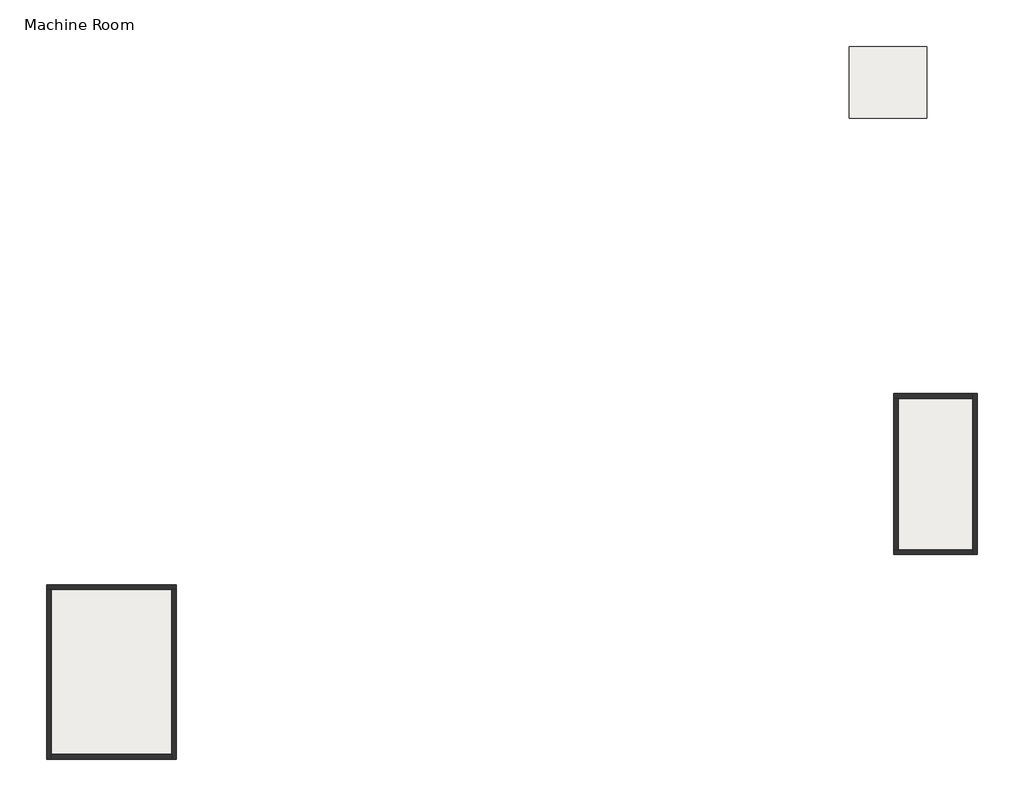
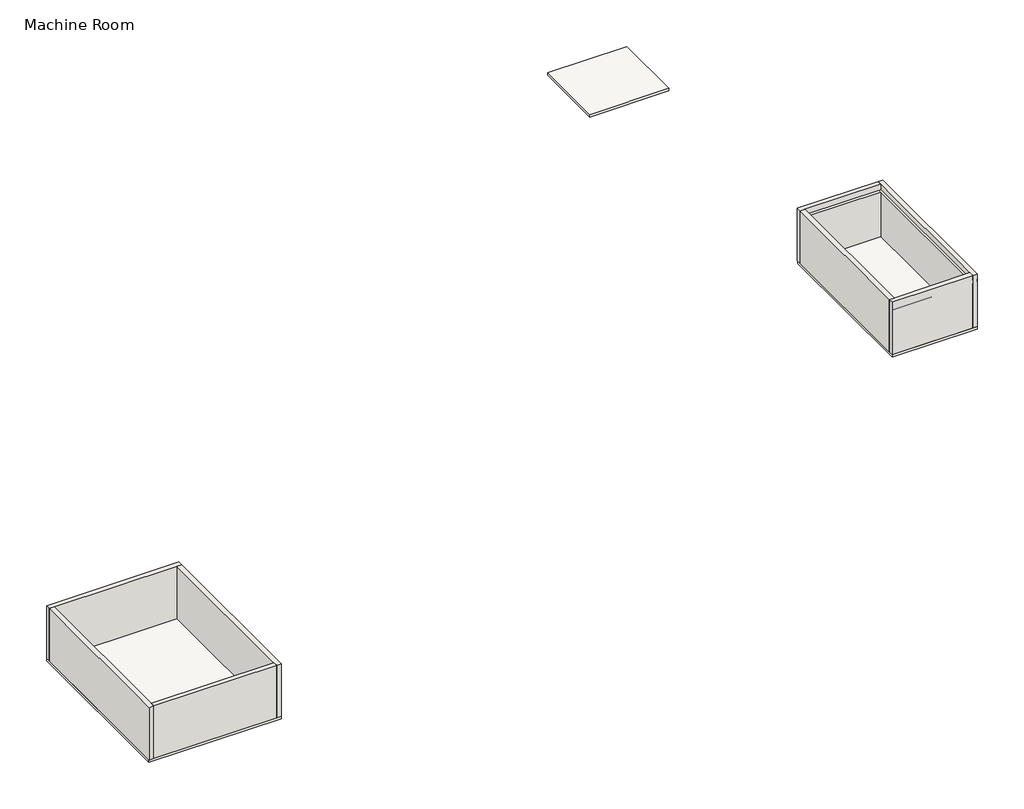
# One storey: 8 walls, 3 slabs.
"""IFC4 building model written with IfcOpenShell, lengths in millimetres."""

import ifcopenshell
import ifcopenshell.guid

model = None  # the IFC model being written
_history = None  # IfcOwnerHistory: only IFC2X3 demands one
_inside = {}  # id of a spatial element -> (the spatial element, [elements in it])
_under = {}  # id of a project, library or spatial element -> (it, [spatial elements below it])
_declared = {}  # id of a project -> (the project, [libraries it declares])
_typed = {}  # id of a type object -> (the type object, [elements of that type])
_made_of = {}  # id of a material, layer set ... -> (it, [elements and type objects made of it])


def new_model(schema):
    """Start an empty IFC model of exactly this schema.

    Asked for "IFC4X3", IfcOpenShell would pick the latest addendum, in which some entities
    have other attributes; the version numbers below select the first issue.
    IFC2X3 requires an IfcOwnerHistory on every rooted entity: one is made here for all.
    """
    global model, _history
    if schema == "IFC4X3":
        model = ifcopenshell.file(schema_version=(4, 3, 0, 0))
    else:
        model = ifcopenshell.file(schema=schema)
    _inside.clear()
    _under.clear()
    _declared.clear()
    _typed.clear()
    _made_of.clear()
    _history = None
    if model.schema == "IFC2X3":
        org = make("IfcOrganization", Name="unknown")
        user = make(
            "IfcPersonAndOrganization",
            ThePerson=make("IfcPerson", FamilyName="unknown"),
            TheOrganization=org,
        )
        app = make(
            "IfcApplication",
            ApplicationDeveloper=org,
            Version="unknown",
            ApplicationFullName="unknown",
            ApplicationIdentifier="unknown",
        )
        _history = make(
            "IfcOwnerHistory",
            OwningUser=user,
            OwningApplication=app,
            ChangeAction="ADDED",
            CreationDate=0,
        )
    return model


def make(cls, **values):
    """One entity of the class cls with the attributes given. An attribute that is None is left unset."""
    return model.create_entity(
        cls, **{name: value for name, value in values.items() if value is not None}
    )


def rooted(cls, **values):
    """An entity with a GlobalId (a new one), such as an element, a storey or a relation."""
    return make(cls, GlobalId=ifcopenshell.guid.new(), OwnerHistory=_history, **values)


def si_unit(unit_type, name, prefix=None):
    """IfcSIUnit, for example si_unit("LENGTHUNIT", "METRE", prefix="MILLI")."""
    return make("IfcSIUnit", UnitType=unit_type, Prefix=prefix, Name=name)


def assignment(units):
    """IfcUnitAssignment: the units of a project."""
    return None if units is None else make("IfcUnitAssignment", Units=units)


def point(xyz):
    """IfcCartesianPoint."""
    return None if xyz is None else make("IfcCartesianPoint", Coordinates=xyz)


def direction(xyz):
    """IfcDirection."""
    return None if xyz is None else make("IfcDirection", DirectionRatios=xyz)


def frame(location, z_axis=None, x_axis=None):
    """IfcAxis2Placement3D, a coordinate frame: its origin and axes. An axis left out is left unset."""
    return make(
        "IfcAxis2Placement3D",
        Location=point(location),
        Axis=direction(z_axis),
        RefDirection=direction(x_axis),
    )


def origin():
    """The frame at (0, 0, 0) with its axes left unset."""
    return frame((0.0, 0.0, 0.0))


def place(relative_to, where):
    """IfcLocalPlacement: puts the frame where relative to a parent placement (None: the world)."""
    return make(
        "IfcLocalPlacement", PlacementRelTo=relative_to, RelativePlacement=where
    )


def context(
    kind, dimensions, precision=None, world=None, true_north=None, identifier=None
):
    """IfcGeometricRepresentationContext, for example the 3D "Model" context."""
    return make(
        "IfcGeometricRepresentationContext",
        ContextIdentifier=identifier,
        ContextType=kind,
        CoordinateSpaceDimension=dimensions,
        Precision=precision,
        WorldCoordinateSystem=world,
        TrueNorth=true_north,
    )


def project(units=None, contexts=None):
    """IfcProject with its units and contexts."""
    return rooted(
        "IfcProject",
        Name="project",
        RepresentationContexts=contexts,
        UnitsInContext=assignment(units),
    )


def spatial(cls, under=None, at=None, **own):
    """A site, building, storey or space (cls), placed at a placement, below another one or the project."""
    s = rooted(cls, ObjectPlacement=at, **own)
    if under is not None:
        _under.setdefault(under.id(), (under, []))[1].append(s)
    return s


def polyline(points):
    """IfcPolyline through the points."""
    return make("IfcPolyline", Points=[point(p) for p in points])


def outline(outer, holes=None, kind="AREA"):
    """IfcArbitraryClosedProfileDef: a profile drawn as a closed curve; with holes, ...WithVoids."""
    if holes is None:
        return make("IfcArbitraryClosedProfileDef", ProfileType=kind, OuterCurve=outer)
    return make(
        "IfcArbitraryProfileDefWithVoids",
        ProfileType=kind,
        OuterCurve=outer,
        InnerCurves=holes,
    )


def extrude(swept, where, along, depth):
    """IfcExtrudedAreaSolid: the profile swept, set in the frame where, extruded along a direction by depth."""
    return make(
        "IfcExtrudedAreaSolid",
        SweptArea=swept,
        Position=where,
        ExtrudedDirection=direction(along),
        Depth=depth,
    )


def faces_of(points, faces, orient=None, outer=None):
    """IfcFace entities. A face is a list of loops; a loop is a list of indices into points, from 0.

    orient and outer hold one flag for each loop. By default every Orientation is true, the
    first loop of a face is its IfcFaceOuterBound and the others are IfcFaceBound.
    """
    made = []
    for i, loops in enumerate(faces):
        bounds = []
        for j, loop in enumerate(loops):
            is_outer = j == 0 if outer is None else outer[i][j]
            bounds.append(
                make(
                    "IfcFaceOuterBound" if is_outer else "IfcFaceBound",
                    Bound=make("IfcPolyLoop", Polygon=[points[k] for k in loop]),
                    Orientation=True if orient is None else orient[i][j],
                )
            )
        made.append(make("IfcFace", Bounds=bounds))
    return made


def faceted_brep(points, faces, orient=None, outer=None, voids=None):
    """IfcFacetedBrep: a solid bounded by flat faces; with voids (closed shells), ...WithVoids."""
    shared = [point(p) for p in points]
    hull = make("IfcClosedShell", CfsFaces=faces_of(shared, faces, orient, outer))
    if voids is None:
        return make("IfcFacetedBrep", Outer=hull)
    return make(
        "IfcFacetedBrepWithVoids",
        Outer=hull,
        Voids=[
            make(cls, CfsFaces=faces_of(shared, fs, o, b)) for cls, fs, o, b in voids
        ],
    )


def shape(context_of_items, identifier, shape_type, items):
    """IfcShapeRepresentation: the items that make up one representation, for example the "Body"."""
    return make(
        "IfcShapeRepresentation",
        ContextOfItems=context_of_items,
        RepresentationIdentifier=identifier,
        RepresentationType=shape_type,
        Items=items,
    )


def made_of(thing, what):
    """Note that an element or type object is made of a material, layer set ...; save() writes the relation."""
    if what is not None:
        _made_of.setdefault(what.id(), (what, []))[1].append(thing)
    return thing


def element(
    cls,
    number,
    at=None,
    inside=None,
    cuts=None,
    type_object=None,
    material=None,
    context=None,
    identifier="Body",
    shape_type=None,
    held_by="IfcProductDefinitionShape",
    body=None,
    shapes=None,
    **own,
):
    """One element of the class cls, such as IfcWall. Its Tag is "e" and its number.

    at: its placement. inside: the storey or other place that contains it. cuts: it is an
    opening in that element (IfcRelVoidsElement). A single representation is given by context,
    identifier, shape_type and body (its items); several are given by shapes. held_by: the class
    of the entity that holds the representations. save() writes the other relations.
    """
    e = rooted(cls, Tag="e%d" % number, ObjectPlacement=at, **own)
    if body is not None:
        shapes = [shape(context, identifier, shape_type, body)]
    if shapes is not None:
        e.Representation = make(held_by, Representations=shapes)
    if inside is not None:
        _inside.setdefault(inside.id(), (inside, []))[1].append(e)
    if cuts is not None:
        rooted(
            "IfcRelVoidsElement", RelatingBuildingElement=cuts, RelatedOpeningElement=e
        )
    if type_object is not None:
        _typed.setdefault(type_object.id(), (type_object, []))[1].append(e)
    return made_of(e, material)


def aggregate(whole, parts):
    """IfcRelAggregates: a whole, such as a stair, and the parts it consists of."""
    return rooted("IfcRelAggregates", RelatingObject=whole, RelatedObjects=parts)


def save(model, path):
    """Write the relations noted so far, then the file.

    IfcRelAggregates (storeys below a building ...), IfcRelContainedInSpatialStructure (elements
    in a storey), IfcRelDefinesByType, IfcRelAssociatesMaterial and IfcRelDeclares: one each for
    every whole, place, type object, material and project.
    """
    for whole, parts in _under.values():
        aggregate(whole, parts)
    for where, things in _inside.values():
        rooted(
            "IfcRelContainedInSpatialStructure",
            RelatedElements=things,
            RelatingStructure=where,
        )
    for kind, things in _typed.values():
        rooted("IfcRelDefinesByType", RelatedObjects=things, RelatingType=kind)
    for what, things in _made_of.values():
        rooted("IfcRelAssociatesMaterial", RelatedObjects=things, RelatingMaterial=what)
    for by, libraries in _declared.values():
        rooted("IfcRelDeclares", RelatingContext=by, RelatedDefinitions=libraries)
    model.write(path)


model = new_model("IFC4")

# Units and contexts
model_context = context("Model", 3, world=origin())
ifc_project = project(units=[si_unit("LENGTHUNIT", "METRE", prefix="MILLI")], contexts=[model_context])

# Site, building, storey
site = spatial("IfcSite", under=ifc_project)
building = spatial("IfcBuilding", under=site)
storey = spatial("IfcBuildingStorey", under=building, Name="Machine Room", Elevation=16650.0)

# Slabs
placement = place(None, origin())
element("IfcSlab", 1, ObjectType="RCC Slab", at=placement, inside=storey, context=model_context, shape_type="SweptSolid", body=[
    extrude(outline(polyline([(-8492.5865899, -8397.6148653), (-8492.5865899, -17957.6148653), (-15639.5865899, -17957.6148653), (-15639.5865899, -8397.6148653), (-8492.5865899, -8397.6148653)])), frame((0.0, 0.0, 16500.0), z_axis=(0.0, 0.0, 1.0), x_axis=(1.0, 0.0, 0.0)), (0.0, 0.0, 1.0), 150.0),
])
element("IfcSlab", 2, ObjectType="RCC Slab", at=placement, inside=storey, context=model_context, shape_type="SweptSolid", body=[
    extrude(outline(polyline([(31002.4134101, 2127.3851347), (35592.4134101, 2127.3851347), (35592.4134101, -6702.6148653), (31002.4134101, -6702.6148653), (31002.4134101, 2127.3851347)])), frame((0.0, 0.0, 16500.0), z_axis=(0.0, 0.0, 1.0), x_axis=(1.0, 0.0, 0.0)), (0.0, 0.0, 1.0), 150.0),
])
element("IfcSlab", 3, ObjectType="RCC Slab", at=placement, inside=storey, context=model_context, shape_type="SweptSolid", body=[
    extrude(outline(polyline([(32822.4134101, 21259.3851347), (32822.4134101, 17322.3851347), (28557.4134101, 17322.3851347), (28557.4134101, 21259.3851347), (32822.4134101, 21259.3851347)])), frame((0.0, 0.0, 16500.0), z_axis=(0.0, 0.0, 1.0), x_axis=(1.0, 0.0, 0.0)), (0.0, 0.0, 1.0), 150.0),
])

# Walls
element("IfcWall", 4, ObjectType="wall-230", at=placement, inside=storey, context=model_context, shape_type="Brep", body=[
    faceted_brep([(-8492.5865899, -8397.6148653, 16650.0), (-15639.5865899, -8397.6148653, 16650.0), (-15639.5865899, -8397.6148653, 19650.0), (-8492.5865899, -8397.6148653, 19650.0), (-8492.5865899, -8654.6148653, 16650.0), (-8492.5865899, -8654.6148653, 19650.0), (-8749.5865899, -8654.6148653, 19650.0), (-15382.5865899, -8654.6148653, 19650.0), (-15639.5865899, -8654.6148653, 19650.0), (-15639.5865899, -8654.6148653, 16650.0), (-15382.5865899, -8654.6148653, 16650.0), (-8749.5865899, -8654.6148653, 16650.0)], [[[0, 1, 2, 3]], [[4, 5, 6, 7, 8, 9, 10, 11]], [[1, 0, 4, 11, 10, 9]], [[3, 2, 8, 7, 6, 5]], [[0, 3, 5, 4]], [[2, 1, 9, 8]]]),
])
element("IfcWall", 5, ObjectType="wall-230", at=placement, inside=storey, context=model_context, shape_type="Brep", body=[
    faceted_brep([(-8749.5865899, -8654.6148653, 16650.0), (-8749.5865899, -17730.6148653, 16650.0), (-8749.5865899, -17987.6148653, 16650.0), (-8749.5865899, -17987.6148653, 19650.0), (-8749.5865899, -17730.6148653, 19650.0), (-8749.5865899, -8654.6148653, 19650.0), (-8492.5865899, -8654.6148653, 16650.0), (-8492.5865899, -8654.6148653, 19650.0), (-8492.5865899, -17987.6148653, 19650.0), (-8492.5865899, -17987.6148653, 16650.0)], [[[0, 1, 2, 3, 4, 5]], [[6, 7, 8, 9]], [[2, 1, 0, 6, 9]], [[5, 4, 3, 8, 7]], [[3, 2, 9, 8]], [[0, 5, 7, 6]]]),
])
element("IfcWall", 6, ObjectType="wall-230", at=placement, inside=storey, context=model_context, shape_type="Brep", body=[
    faceted_brep([(-15639.5865899, -8654.6148653, 16650.0), (-15639.5865899, -17987.6148653, 16650.0), (-15639.5865899, -17987.6148653, 19650.0), (-15639.5865899, -8654.6148653, 19650.0), (-15382.5865899, -8654.6148653, 16650.0), (-15382.5865899, -8654.6148653, 19650.0), (-15382.5865899, -17730.6148653, 19650.0), (-15382.5865899, -17987.6148653, 19650.0), (-15382.5865899, -17987.6148653, 16650.0), (-15382.5865899, -17730.6148653, 16650.0)], [[[0, 1, 2, 3]], [[4, 5, 6, 7, 8, 9]], [[1, 0, 4, 9, 8]], [[3, 2, 7, 6, 5]], [[2, 1, 8, 7]], [[0, 3, 5, 4]]]),
])
element("IfcWall", 7, ObjectType="wall-230", at=placement, inside=storey, context=model_context, shape_type="SweptSolid", body=[
    extrude(outline(polyline([(-8749.5865899, -17987.6148653), (-15382.5865899, -17987.6148653), (-15382.5865899, -17730.6148653), (-8749.5865899, -17730.6148653), (-8749.5865899, -17987.6148653)])), frame((0.0, 0.0, 16650.0), z_axis=(0.0, 0.0, 1.0), x_axis=(1.0, 0.0, 0.0)), (0.0, 0.0, 1.0), 3000.0),
])
element("IfcWall", 8, ObjectType="wall-230", at=placement, inside=storey, context=model_context, shape_type="Brep", body=[
    faceted_brep([(35604.4134101, -6714.6148653, 16650.0), (35604.4134101, 2139.3851347, 16650.0), (35604.4134101, 2139.3851347, 19650.0), (35604.4134101, -6714.6148653, 19650.0), (35347.4134101, 2139.3851347, 16650.0), (35347.4134101, 1882.3851347, 16650.0), (35347.4134101, -6457.6148653, 16650.0), (35347.4134101, -6714.6148653, 16650.0), (35347.4134101, -6714.6148653, 19650.0), (35347.4134101, -6457.6148653, 19650.0), (35347.4134101, 1882.3851347, 19650.0), (35347.4134101, 2139.3851347, 19650.0), (35347.4134101, -6702.6148653, 19200.0), (35347.4134101, -6457.6148653, 19200.0), (35347.4134101, 1882.3851347, 19200.0), (35347.4134101, 2127.3851347, 19200.0), (35347.4134101, 2127.3851347, 19350.0), (35347.4134101, 1882.3851347, 19350.0), (35347.4134101, -6457.6148653, 19350.0), (35347.4134101, -6702.6148653, 19350.0), (35592.4134101, -6702.6148653, 19200.0), (35592.4134101, 2127.3851347, 19200.0), (35592.4134101, 2127.3851347, 19350.0), (35592.4134101, -6702.6148653, 19350.0)], [[[0, 1, 2, 3]], [[4, 5, 6, 7, 8, 9, 10, 11], [12, 13, 14, 15, 16, 17, 18, 19]], [[1, 0, 7, 6, 5, 4]], [[3, 2, 11, 10, 9, 8]], [[0, 3, 8, 7]], [[2, 1, 4, 11]], [[20, 21, 15, 14, 13, 12]], [[22, 23, 19, 18, 17, 16]], [[21, 22, 16, 15]], [[21, 20, 23, 22]], [[23, 20, 12, 19]]]),
])
element("IfcWall", 9, ObjectType="wall-230", at=placement, inside=storey, context=model_context, shape_type="Brep", body=[
    faceted_brep([(35347.4134101, 2139.3851347, 16650.0), (30990.4134101, 2139.3851347, 16650.0), (30990.4134101, 2139.3851347, 19650.0), (35347.4134101, 2139.3851347, 19650.0), (30990.4134101, 1882.3851347, 16650.0), (31247.4134101, 1882.3851347, 16650.0), (35347.4134101, 1882.3851347, 16650.0), (35347.4134101, 1882.3851347, 19200.0), (31247.4134101, 1882.3851347, 19200.0), (31002.4134101, 1882.3851347, 19200.0), (31002.4134101, 1882.3851347, 19350.0), (31247.4134101, 1882.3851347, 19350.0), (35347.4134101, 1882.3851347, 19350.0), (35347.4134101, 1882.3851347, 19650.0), (31247.4134101, 1882.3851347, 19650.0), (30990.4134101, 1882.3851347, 19650.0), (35347.4134101, 2127.3851347, 19350.0), (35347.4134101, 2127.3851347, 19200.0), (31002.4134101, 2127.3851347, 19200.0), (31002.4134101, 2127.3851347, 19350.0)], [[[0, 1, 2, 3]], [[4, 5, 6, 7, 8, 9, 10, 11, 12, 13, 14, 15]], [[1, 0, 6, 5, 4]], [[3, 2, 15, 14, 13]], [[2, 1, 4, 15]], [[0, 3, 13, 12, 16, 17, 7, 6]], [[17, 18, 9, 8, 7]], [[10, 19, 16, 12, 11]], [[18, 19, 10, 9]], [[19, 18, 17, 16]]]),
])
element("IfcWall", 10, ObjectType="wall-230", at=placement, inside=storey, context=model_context, shape_type="Brep", body=[
    faceted_brep([(35347.4134101, -6457.6148653, 16650.0), (31247.4134101, -6457.6148653, 16650.0), (30990.4134101, -6457.6148653, 16650.0), (30990.4134101, -6457.6148653, 19650.0), (31247.4134101, -6457.6148653, 19650.0), (35347.4134101, -6457.6148653, 19650.0), (35347.4134101, -6457.6148653, 19350.0), (31247.4134101, -6457.6148653, 19350.0), (31002.4134101, -6457.6148653, 19350.0), (31002.4134101, -6457.6148653, 19200.0), (31247.4134101, -6457.6148653, 19200.0), (35347.4134101, -6457.6148653, 19200.0), (30990.4134101, -6714.6148653, 16650.0), (35347.4134101, -6714.6148653, 16650.0), (35347.4134101, -6714.6148653, 19650.0), (30990.4134101, -6714.6148653, 19650.0), (35347.4134101, -6702.6148653, 19200.0), (35347.4134101, -6702.6148653, 19350.0), (31002.4134101, -6702.6148653, 19200.0), (31002.4134101, -6702.6148653, 19350.0)], [[[0, 1, 2, 3, 4, 5, 6, 7, 8, 9, 10, 11]], [[12, 13, 14, 15]], [[2, 1, 0, 13, 12]], [[5, 4, 3, 15, 14]], [[3, 2, 12, 15]], [[5, 14, 13, 0, 11, 16, 17, 6]], [[18, 16, 11, 10, 9]], [[19, 8, 7, 6, 17]], [[19, 18, 9, 8]], [[18, 19, 17, 16]]]),
])
element("IfcWall", 11, ObjectType="wall-230", at=placement, inside=storey, context=model_context, shape_type="SweptSolid", body=[
    extrude(outline(polyline([(19650.0, 30990.4134101), (16650.0, 30990.4134101), (16650.0, 31247.4134101), (19200.0, 31247.4134101), (19200.0, 31002.4134101), (19350.0, 31002.4134101), (19350.0, 31247.4134101), (19650.0, 31247.4134101), (19650.0, 30990.4134101)])), frame((0.0, -6457.6148653, 0.0), z_axis=(0.0, 1.0, 0.0), x_axis=(0.0, 0.0, 1.0)), (0.0, 0.0, 1.0), 8340.0),
])

save(model, "model.ifc")
